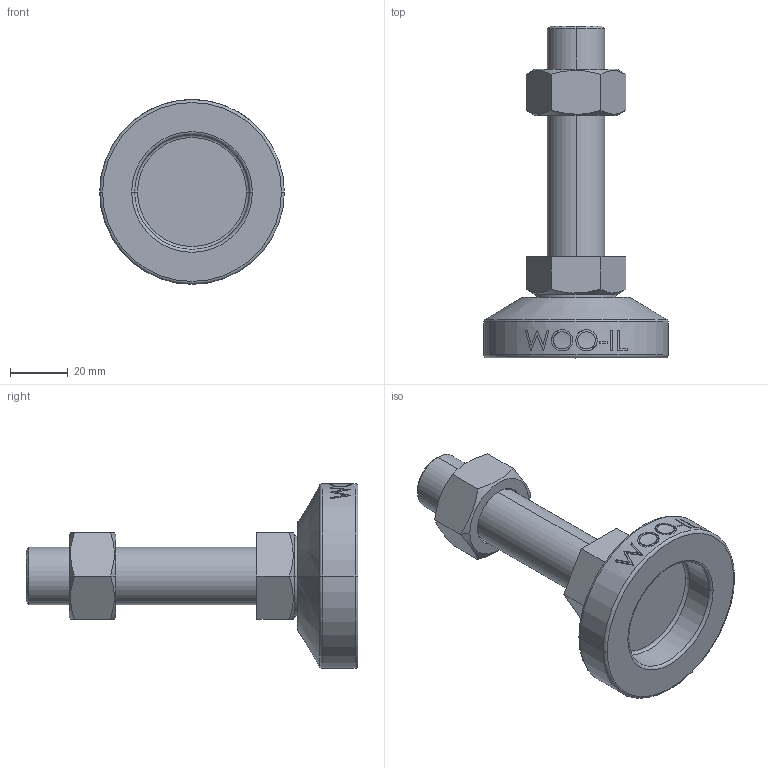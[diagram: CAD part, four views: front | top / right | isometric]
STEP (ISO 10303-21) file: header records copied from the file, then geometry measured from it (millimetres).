
FILE_DESCRIPTION (( 'STEP AP214' ), '1' );
FILE_NAME ('MFZ64-M20-80.step', '2021-01-15T07:07:37', ( '' ), ( '' ), 'SwSTEP 2.0', 'SolidWorks 2019', '' );
FILE_SCHEMA (( 'AUTOMOTIVE_DESIGN' ));
Length unit declared in the file: millimetre
Products named in the file (2): MFZ64-M20-80
Bounding box: 64 x 115 x 64 mm (x, y, z)
Volume: 86921.6 mm3; surface area: 21997.9 mm2
Topology: 3 solids, 3 shells, 106 faces, 243 edges, 154 vertices
Faces by surface type: plane 48, cylinder 18, bspline 16, cone 14, torus 10
Entity records: 4532 total; most frequent: CARTESIAN_POINT 2189, ORIENTED_EDGE 486, DIRECTION 439, EDGE_CURVE 243, AXIS2_PLACEMENT_3D 170, VERTEX_POINT 154, EDGE_LOOP 119, ADVANCED_FACE 106
